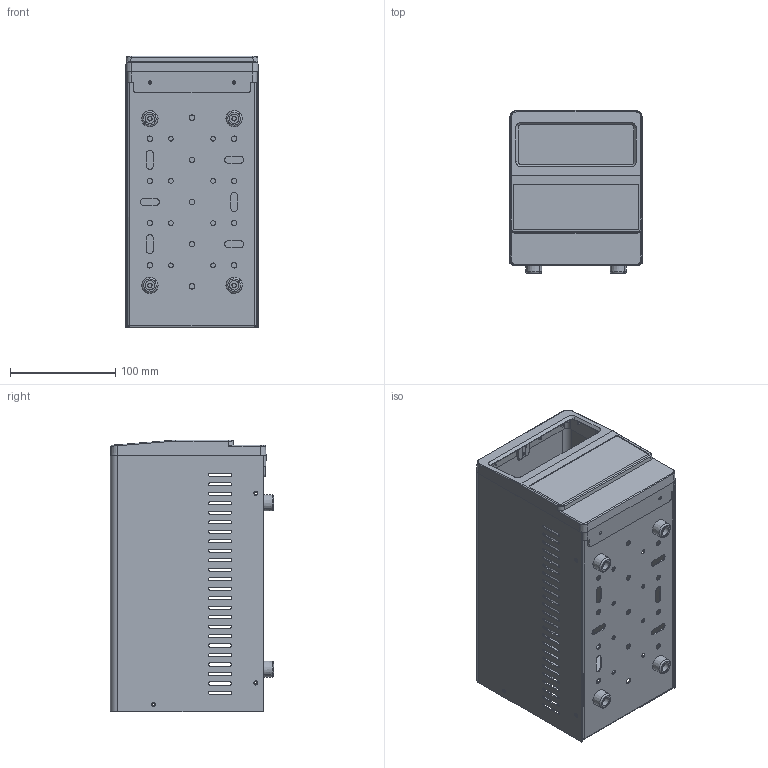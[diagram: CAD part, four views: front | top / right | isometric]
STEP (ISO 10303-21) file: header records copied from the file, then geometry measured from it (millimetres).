
FILE_DESCRIPTION (( 'STEP AP203' ), '1' );
FILE_NAME ('DT-410-0-0.STEP', '2020-05-30T12:32:16', ( '' ), ( '' ), 'SwSTEP 2.0', 'SolidWorks 2020', '' );
FILE_SCHEMA (( 'CONFIG_CONTROL_DESIGN' ));
Length unit declared in the file: millimetre
Products named in the file (11): DT-410-P-4; DT-410-P-3; A-83-0-0-S-0; DT-410-0-0; DT-410-P-2; A-83; A-83_pul; DT-410-P-1
Assembly tree (16 placements, depth 3):
  DT-410-0-0
    DT-410-P-2
    DT-410-P-1
    DT-410-P-3
    DT-410-P-4
    A-83-0-0-S-0
      A-83
      A-83_pul
    A-83-0-0-S-0
      A-83
      A-83_pul
    A-83-0-0-S-0
      A-83
      A-83_pul
    A-83-0-0-S-0
      A-83
      A-83_pul
Bounding box: 126 x 154.8 x 258 mm (x, y, z)
Volume: 217872 mm3; surface area: 361926.7 mm2
Topology: 12 solids, 12 shells, 941 faces, 2568 edges, 1688 vertices
Faces by surface type: cylinder 485, plane 391, cone 44, bspline 11, torus 10
Entity records: 30864 total; most frequent: CARTESIAN_POINT 5856, DIRECTION 5042, ORIENTED_EDGE 4896, EDGE_CURVE 2448, AXIS2_PLACEMENT_3D 1804, VERTEX_POINT 1610, LINE 1434, VECTOR 1434
